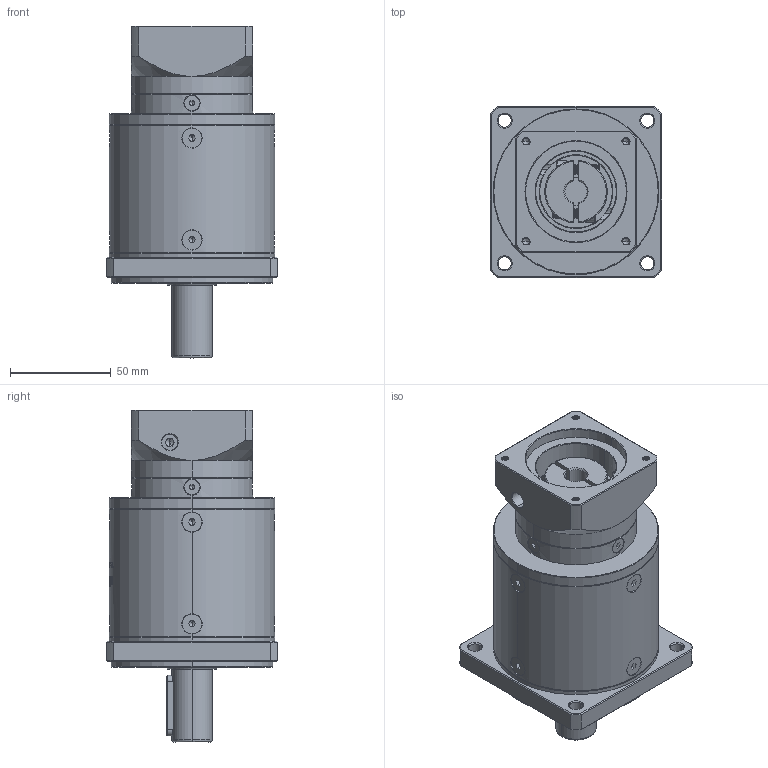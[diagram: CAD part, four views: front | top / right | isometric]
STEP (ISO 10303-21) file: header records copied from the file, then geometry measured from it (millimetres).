
FILE_DESCRIPTION (( 'STEP AP214' ), '1' );
FILE_NAME ('ZF80-D20-L3-11-50-70-M4.step', '2022-05-08T09:24:04', ( '' ), ( 'Microsoft' ), 'SwSTEP 2.0', 'SolidWorks 2016', '' );
FILE_SCHEMA (( 'AUTOMOTIVE_DESIGN' ));
Length unit declared in the file: millimetre
Products named in the file (1): ZF80-D20-L3-11-50-70-M4
Bounding box: 85 x 85 x 164.5 mm (x, y, z)
Volume: 572716.8 mm3; surface area: 72690.4 mm2
Topology: 18 solids, 18 shells, 2010 faces, 5259 edges, 3345 vertices
Faces by surface type: plane 948, cylinder 393, bspline 328, cone 327, torus 14
Entity records: 105738 total; most frequent: CARTESIAN_POINT 37590, ORIENTED_EDGE 10442, DIRECTION 8347, EDGE_CURVE 5221, VERTEX_POINT 3345, VECTOR 2807, LINE 2807, AXIS2_PLACEMENT_3D 2770
